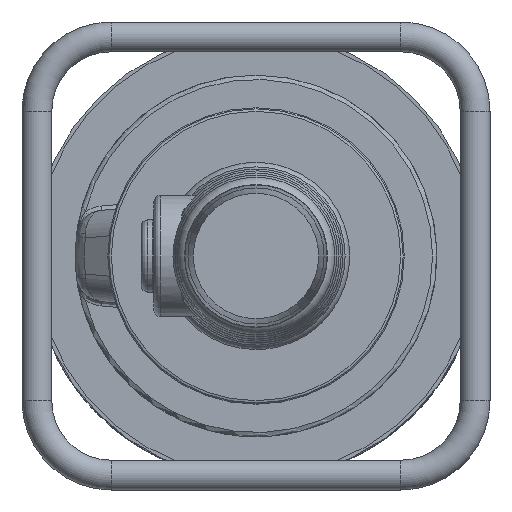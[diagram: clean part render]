
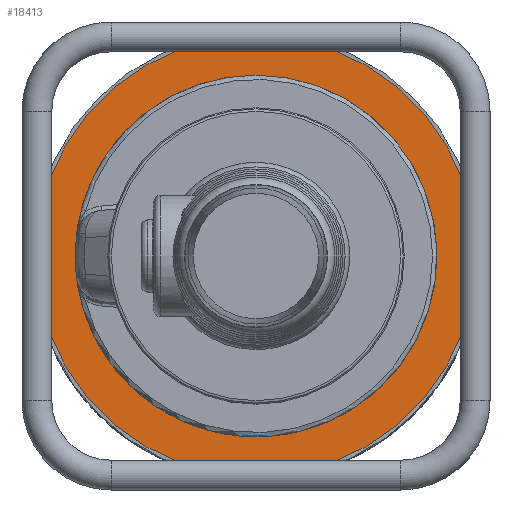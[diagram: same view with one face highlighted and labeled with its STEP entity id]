
A CAD part, left-side view. The second image highlights one B-rep face of the part: STEP entity #18413.
In plain terms, the highlighted planar face has unit normal (-1, 0, 0).
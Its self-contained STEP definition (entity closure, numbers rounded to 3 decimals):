
#138=FACE_BOUND('',#6106,.T.);
#992=PLANE('',#19712);
#4987=FACE_OUTER_BOUND('',#6105,.T.);
#6105=EDGE_LOOP('',(#16443));
#6106=EDGE_LOOP('',(#16444));
#6626=CIRCLE('',#19504,85.);
#6763=CIRCLE('',#19711,103.5);
#8511=VERTEX_POINT('',#40708);
#8614=VERTEX_POINT('',#41962);
#11054=EDGE_CURVE('',#8511,#8511,#6626,.T.);
#11242=EDGE_CURVE('',#8614,#8614,#6763,.T.);
#16443=ORIENTED_EDGE('',*,*,#11242,.F.);
#16444=ORIENTED_EDGE('',*,*,#11054,.T.);
#18413=ADVANCED_FACE('',(#4987,#138),#992,.F.);
#19504=AXIS2_PLACEMENT_3D('',#40709,#22958,#22959);
#19711=AXIS2_PLACEMENT_3D('',#41963,#23386,#23387);
#19712=AXIS2_PLACEMENT_3D('',#41965,#23389,#23390);
#22958=DIRECTION('center_axis',(1.,0.,0.));
#22959=DIRECTION('ref_axis',(0.,0.,
-1.));
#23386=DIRECTION('center_axis',(1.,0.,0.));
#23387=DIRECTION('ref_axis',(0.,-1.,0.));
#23389=DIRECTION('center_axis',(1.,0.,0.));
#23390=DIRECTION('ref_axis',(0.,-1.,0.));
#40708=CARTESIAN_POINT('',(0.,0.,85.));
#40709=CARTESIAN_POINT('Origin',(0.,0.,
0.));
#41962=CARTESIAN_POINT('',(0.,103.5,0.));
#41963=CARTESIAN_POINT('Origin',(0.,0.,
0.));
#41965=CARTESIAN_POINT('Origin',(0.,0.,
0.));
